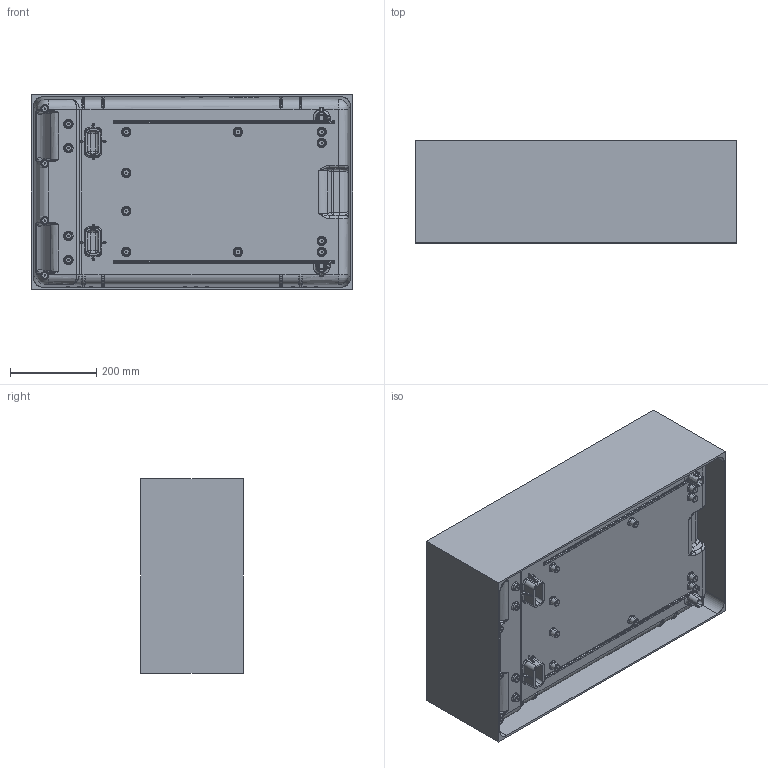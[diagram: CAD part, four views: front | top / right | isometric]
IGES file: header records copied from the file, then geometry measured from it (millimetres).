
Start section: SolidWorks IGES file using analytic representation for surfaces
Global section: file name: C:\temp\1670 WEBSITE FILES\1671 BOTTOM.IGS; native system: SolidWorks 2016; preprocessor: SolidWorks 2016; author: mhakami; date: 160301.153620; units: inch
Bounding box: 744.21 x 236.22 x 451.1 mm (x, y, z)
Surface area: 2586989.1 mm2 (no closed solid volume)
Topology: 0 solids, 0 shells, 1704 faces, 17461 edges, 17430 vertices
Faces by surface type: bspline 974, revolution 730
